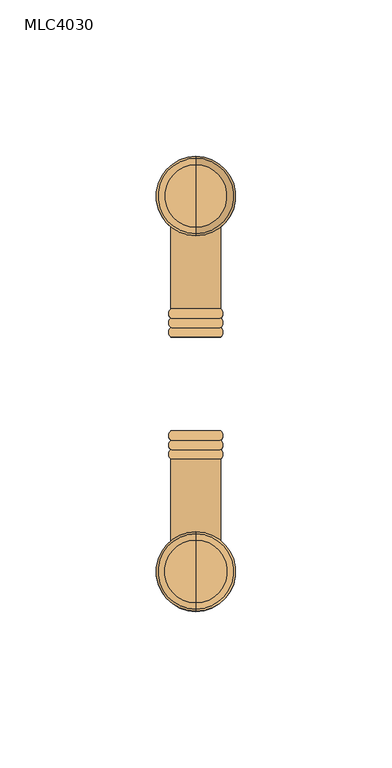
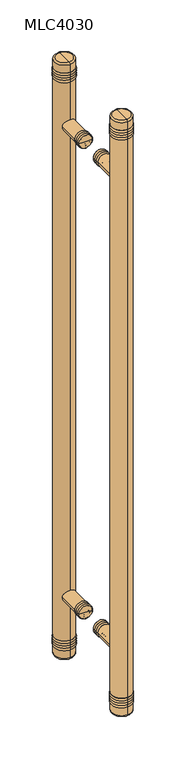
"""IFC4 building model written with IfcOpenShell, lengths in millimetres: door geometry, 双面嵌板连窗玻璃门 4 : MLC4030."""

from ifc_helpers import new_model, si_unit, point, frame, origin, place, context, project, spatial, circle_curve, ellipse_curve, trimmed, source, transform, mapped, element, save
from ifc_brep_helpers import plane_surface, cylinder_surface, revolved_surface, advanced_brep


def mlc4030_d43cdeba(model_context):
    return source(origin(), model_context, "Body", "AdvancedBrep", [
        advanced_brep(
        [(59.0, 15.0, 1300.0), (51.0, 15.0, 1300.0), (67.0, 15.0, 1300.0), (67.0, 24.0, 1300.0), (51.0, 24.0, 1300.0), (59.0, 24.0, 1300.0), (67.0, 21.0, 1300.0), (51.0, 21.0, 1300.0), (67.0, 18.0, 1300.0), (51.0, 18.0, 1300.0)],
        [
            (0, 1),
            (1, 2, circle_curve(frame((59.0, 15.0, 1300.0), z_axis=(0.0, -1.0, 0.0), x_axis=(-1.0, 0.0, 0.0)), 8.0)),
            (2, 0),
            (2, 1, circle_curve(frame((59.0, 15.0, 1300.0), z_axis=(0.0, -1.0, 0.0), x_axis=(-1.0, 0.0, 0.0)), 8.0)),
            (3, 4, circle_curve(frame((59.0, 24.0, 1300.0), z_axis=(0.0, 1.0, 0.0), x_axis=(-1.0, 0.0, 0.0)), 8.0)),
            (4, 5),
            (5, 3),
            (4, 3, circle_curve(frame((59.0, 24.0, 1300.0), z_axis=(0.0, 1.0, 0.0), x_axis=(-1.0, 0.0, 0.0)), 8.0)),
            (6, 7, circle_curve(frame((59.0, 21.0, 1300.0), z_axis=(0.0, 1.0, 0.0), x_axis=(-1.0, 0.0, 0.0)), 8.0)),
            (7, 4, circle_curve(frame((52.3228757, 22.5, 1300.0), z_axis=(0.0, 0.0, -1.0), x_axis=(-1.0, 0.0, 0.0)), 2.0)),
            (3, 6, circle_curve(frame((65.6771243, 22.5, 1300.0), z_axis=(0.0, 0.0, -1.0), x_axis=(1.0, 0.0, 0.0)), 2.0)),
            (7, 6, circle_curve(frame((59.0, 21.0, 1300.0), z_axis=(0.0, 1.0, 0.0), x_axis=(-1.0, 0.0, 0.0)), 8.0)),
            (8, 9, circle_curve(frame((59.0, 18.0, 1300.0), z_axis=(0.0, 1.0, 0.0), x_axis=(-1.0, 0.0, 0.0)), 8.0)),
            (9, 7, circle_curve(frame((52.3228757, 19.5, 1300.0), z_axis=(0.0, 0.0, -1.0), x_axis=(-1.0, 0.0, 0.0)), 2.0)),
            (6, 8, circle_curve(frame((65.6771243, 19.5, 1300.0), z_axis=(0.0, 0.0, -1.0), x_axis=(1.0, 0.0, 0.0)), 2.0)),
            (9, 8, circle_curve(frame((59.0, 18.0, 1300.0), z_axis=(0.0, 1.0, 0.0), x_axis=(-1.0, 0.0, 0.0)), 8.0)),
            (1, 9, circle_curve(frame((52.3228757, 16.5, 1300.0), z_axis=(0.0, 0.0, -1.0), x_axis=(-1.0, 0.0, 0.0)), 2.0)),
            (8, 2, circle_curve(frame((65.6771243, 16.5, 1300.0), z_axis=(0.0, 0.0, -1.0), x_axis=(1.0, 0.0, 0.0)), 2.0)),
        ],
        [
            plane_surface(frame((59.0, 15.0, 1300.0), z_axis=(0.0, -1.0, 0.0), x_axis=(-1.0, 0.0, 0.0))),
            plane_surface(frame((59.0, 24.0, 1300.0), z_axis=(0.0, 1.0, 0.0), x_axis=(-1.0, 0.0, 0.0))),
            revolved_surface(trimmed(ellipse_curve(frame((52.3228757, 22.5, 1300.0), z_axis=(0.0, 0.0, 1.0), x_axis=(-1.0, 0.0, 0.0)), 2.0, 2.0), [point((51.0, 24.0, 1300.0))], [point((51.0, 21.0, 1300.0))], True, "CARTESIAN"), (59.0, -105.0, 1300.0), (0.0, -1.0, 0.0)),
            revolved_surface(trimmed(ellipse_curve(frame((52.3228757, 19.5, 1300.0), z_axis=(0.0, 0.0, 1.0), x_axis=(-1.0, 0.0, 0.0)), 2.0, 2.0), [point((51.0, 21.0, 1300.0))], [point((51.0, 18.0, 1300.0))], True, "CARTESIAN"), (59.0, -105.0, 1300.0), (0.0, -1.0, 0.0)),
            revolved_surface(trimmed(ellipse_curve(frame((52.3228757, 16.5, 1300.0), z_axis=(0.0, 0.0, 1.0), x_axis=(-1.0, 0.0, 0.0)), 2.0, 2.0), [point((51.0, 18.0, 1300.0))], [point((51.0, 15.0, 1300.0))], True, "CARTESIAN"), (59.0, -105.0, 1300.0), (0.0, -1.0, 0.0)),
        ],
        [
            (0, [[1, 2, 3]]),
            (0, [[-3, 4, -1]]),
            (1, [[5, 6, 7]]),
            (1, [[8, -7, -6]]),
            (2, [[9, 10, -5, 11]]),
            (2, [[12, -11, -8, -10]]),
            (3, [[13, 14, -9, 15]]),
            (3, [[16, -15, -12, -14]]),
            (4, [[-2, 17, -13, 18]]),
            (4, [[-4, -18, -16, -17]]),
        ],
    ),
        advanced_brep(
        [(67.0, -18.0, 1300.0), (51.0, -18.0, 1300.0), (51.0, -15.0, 1300.0), (67.0, -15.0, 1300.0), (67.0, -21.0, 1300.0), (51.0, -21.0, 1300.0), (67.0, -24.0, 1300.0), (51.0, -24.0, 1300.0), (59.0, -24.0, 1300.0), (59.0, -15.0, 1300.0)],
        [
            (0, 1, circle_curve(frame((59.0, -18.0, 1300.0), z_axis=(0.0, 1.0, 0.0), x_axis=(-1.0, 0.0, 0.0)), 8.0)),
            (1, 2, circle_curve(frame((52.3228757, -16.5, 1300.0), z_axis=(0.0, 0.0, -1.0), x_axis=(-1.0, 0.0, 0.0)), 2.0)),
            (2, 3, circle_curve(frame((59.0, -15.0, 1300.0), z_axis=(0.0, -1.0, 0.0), x_axis=(-1.0, 0.0, 0.0)), 8.0)),
            (3, 0, circle_curve(frame((65.6771243, -16.5, 1300.0), z_axis=(0.0, 0.0, -1.0), x_axis=(1.0, 0.0, 0.0)), 2.0)),
            (1, 0, circle_curve(frame((59.0, -18.0, 1300.0), z_axis=(0.0, 1.0, 0.0), x_axis=(-1.0, 0.0, 0.0)), 8.0)),
            (3, 2, circle_curve(frame((59.0, -15.0, 1300.0), z_axis=(0.0, -1.0, 0.0), x_axis=(-1.0, 0.0, 0.0)), 8.0)),
            (4, 5, circle_curve(frame((59.0, -21.0, 1300.0), z_axis=(0.0, 1.0, 0.0), x_axis=(-1.0, 0.0, 0.0)), 8.0)),
            (5, 1, circle_curve(frame((52.3228757, -19.5, 1300.0), z_axis=(0.0, 0.0, -1.0), x_axis=(-1.0, 0.0, 0.0)), 2.0)),
            (0, 4, circle_curve(frame((65.6771243, -19.5, 1300.0), z_axis=(0.0, 0.0, -1.0), x_axis=(1.0, 0.0, 0.0)), 2.0)),
            (5, 4, circle_curve(frame((59.0, -21.0, 1300.0), z_axis=(0.0, 1.0, 0.0), x_axis=(-1.0, 0.0, 0.0)), 8.0)),
            (6, 7, circle_curve(frame((59.0, -24.0, 1300.0), z_axis=(0.0, 1.0, 0.0), x_axis=(-1.0, 0.0, 0.0)), 8.0)),
            (7, 5, circle_curve(frame((52.3228757, -22.5, 1300.0), z_axis=(0.0, 0.0, -1.0), x_axis=(-1.0, 0.0, 0.0)), 2.0)),
            (4, 6, circle_curve(frame((65.6771243, -22.5, 1300.0), z_axis=(0.0, 0.0, -1.0), x_axis=(1.0, 0.0, 0.0)), 2.0)),
            (7, 6, circle_curve(frame((59.0, -24.0, 1300.0), z_axis=(0.0, 1.0, 0.0), x_axis=(-1.0, 0.0, 0.0)), 8.0)),
            (8, 7),
            (6, 8),
            (2, 9),
            (9, 3),
        ],
        [
            revolved_surface(trimmed(ellipse_curve(frame((52.3228757, -16.5, 1300.0), z_axis=(0.0, 0.0, 1.0), x_axis=(-1.0, 0.0, 0.0)), 2.0, 2.0), [point((51.0, -15.0, 1300.0))], [point((51.0, -18.0, 1300.0))], True, "CARTESIAN"), (59.0, -105.0, 1300.0), (0.0, -1.0, 0.0)),
            revolved_surface(trimmed(ellipse_curve(frame((52.3228757, -19.5, 1300.0), z_axis=(0.0, 0.0, 1.0), x_axis=(-1.0, 0.0, 0.0)), 2.0, 2.0), [point((51.0, -18.0, 1300.0))], [point((51.0, -21.0, 1300.0))], True, "CARTESIAN"), (59.0, -105.0, 1300.0), (0.0, -1.0, 0.0)),
            revolved_surface(trimmed(ellipse_curve(frame((52.3228757, -22.5, 1300.0), z_axis=(0.0, 0.0, 1.0), x_axis=(-1.0, 0.0, 0.0)), 2.0, 2.0), [point((51.0, -21.0, 1300.0))], [point((51.0, -24.0, 1300.0))], True, "CARTESIAN"), (59.0, -105.0, 1300.0), (0.0, -1.0, 0.0)),
            plane_surface(frame((59.0, -24.0, 1300.0), z_axis=(0.0, -1.0, 0.0), x_axis=(-1.0, 0.0, 0.0))),
            plane_surface(frame((59.0, -15.0, 1300.0), z_axis=(0.0, 1.0, 0.0), x_axis=(-1.0, 0.0, 0.0))),
        ],
        [
            (0, [[1, 2, 3, 4]]),
            (0, [[5, -4, 6, -2]]),
            (1, [[7, 8, -1, 9]]),
            (1, [[10, -9, -5, -8]]),
            (2, [[11, 12, -7, 13]]),
            (2, [[14, -13, -10, -12]]),
            (3, [[15, -11, 16]]),
            (3, [[-16, -14, -15]]),
            (4, [[-3, 17, 18]]),
            (4, [[-6, -18, -17]]),
        ],
    ),
        advanced_brep(
        [(59.0, 15.0, 700.0), (51.0, 15.0, 700.0), (67.0, 15.0, 700.0), (67.0, 24.0, 700.0), (51.0, 24.0, 700.0), (59.0, 24.0, 700.0), (67.0, 21.0, 700.0), (51.0, 21.0, 700.0), (67.0, 18.0, 700.0), (51.0, 18.0, 700.0)],
        [
            (0, 1),
            (1, 2, circle_curve(frame((59.0, 15.0, 700.0), z_axis=(0.0, -1.0, 0.0), x_axis=(-1.0, 0.0, 0.0)), 8.0)),
            (2, 0),
            (2, 1, circle_curve(frame((59.0, 15.0, 700.0), z_axis=(0.0, -1.0, 0.0), x_axis=(-1.0, 0.0, 0.0)), 8.0)),
            (3, 4, circle_curve(frame((59.0, 24.0, 700.0), z_axis=(0.0, 1.0, 0.0), x_axis=(-1.0, 0.0, 0.0)), 8.0)),
            (4, 5),
            (5, 3),
            (4, 3, circle_curve(frame((59.0, 24.0, 700.0), z_axis=(0.0, 1.0, 0.0), x_axis=(-1.0, 0.0, 0.0)), 8.0)),
            (6, 7, circle_curve(frame((59.0, 21.0, 700.0), z_axis=(0.0, 1.0, 0.0), x_axis=(-1.0, 0.0, 0.0)), 8.0)),
            (7, 4, circle_curve(frame((52.3228757, 22.5, 700.0), z_axis=(0.0, 0.0, -1.0), x_axis=(-1.0, 0.0, 0.0)), 2.0)),
            (3, 6, circle_curve(frame((65.6771243, 22.5, 700.0), z_axis=(0.0, 0.0, -1.0), x_axis=(1.0, 0.0, 0.0)), 2.0)),
            (7, 6, circle_curve(frame((59.0, 21.0, 700.0), z_axis=(0.0, 1.0, 0.0), x_axis=(-1.0, 0.0, 0.0)), 8.0)),
            (8, 9, circle_curve(frame((59.0, 18.0, 700.0), z_axis=(0.0, 1.0, 0.0), x_axis=(-1.0, 0.0, 0.0)), 8.0)),
            (9, 7, circle_curve(frame((52.3228757, 19.5, 700.0), z_axis=(0.0, 0.0, -1.0), x_axis=(-1.0, 0.0, 0.0)), 2.0)),
            (6, 8, circle_curve(frame((65.6771243, 19.5, 700.0), z_axis=(0.0, 0.0, -1.0), x_axis=(1.0, 0.0, 0.0)), 2.0)),
            (9, 8, circle_curve(frame((59.0, 18.0, 700.0), z_axis=(0.0, 1.0, 0.0), x_axis=(-1.0, 0.0, 0.0)), 8.0)),
            (1, 9, circle_curve(frame((52.3228757, 16.5, 700.0), z_axis=(0.0, 0.0, -1.0), x_axis=(-1.0, 0.0, 0.0)), 2.0)),
            (8, 2, circle_curve(frame((65.6771243, 16.5, 700.0), z_axis=(0.0, 0.0, -1.0), x_axis=(1.0, 0.0, 0.0)), 2.0)),
        ],
        [
            plane_surface(frame((59.0, 15.0, 700.0), z_axis=(0.0, -1.0, 0.0), x_axis=(-1.0, 0.0, 0.0))),
            plane_surface(frame((59.0, 24.0, 700.0), z_axis=(0.0, 1.0, 0.0), x_axis=(-1.0, 0.0, 0.0))),
            revolved_surface(trimmed(ellipse_curve(frame((52.3228757, 22.5, 700.0), z_axis=(0.0, 0.0, 1.0), x_axis=(-1.0, 0.0, 0.0)), 2.0, 2.0), [point((51.0, 24.0, 700.0))], [point((51.0, 21.0, 700.0))], True, "CARTESIAN"), (59.0, -105.0, 700.0), (0.0, -1.0, 0.0)),
            revolved_surface(trimmed(ellipse_curve(frame((52.3228757, 19.5, 700.0), z_axis=(0.0, 0.0, 1.0), x_axis=(-1.0, 0.0, 0.0)), 2.0, 2.0), [point((51.0, 21.0, 700.0))], [point((51.0, 18.0, 700.0))], True, "CARTESIAN"), (59.0, -105.0, 700.0), (0.0, -1.0, 0.0)),
            revolved_surface(trimmed(ellipse_curve(frame((52.3228757, 16.5, 700.0), z_axis=(0.0, 0.0, 1.0), x_axis=(-1.0, 0.0, 0.0)), 2.0, 2.0), [point((51.0, 18.0, 700.0))], [point((51.0, 15.0, 700.0))], True, "CARTESIAN"), (59.0, -105.0, 700.0), (0.0, -1.0, 0.0)),
        ],
        [
            (0, [[1, 2, 3]]),
            (0, [[-3, 4, -1]]),
            (1, [[5, 6, 7]]),
            (1, [[8, -7, -6]]),
            (2, [[9, 10, -5, 11]]),
            (2, [[12, -11, -8, -10]]),
            (3, [[13, 14, -9, 15]]),
            (3, [[16, -15, -12, -14]]),
            (4, [[-2, 17, -13, 18]]),
            (4, [[-4, -18, -16, -17]]),
        ],
    ),
        advanced_brep(
        [(67.0, -18.0, 700.0), (51.0, -18.0, 700.0), (51.0, -15.0, 700.0), (67.0, -15.0, 700.0), (67.0, -21.0, 700.0), (51.0, -21.0, 700.0), (67.0, -24.0, 700.0), (51.0, -24.0, 700.0), (59.0, -24.0, 700.0), (59.0, -15.0, 700.0)],
        [
            (0, 1, circle_curve(frame((59.0, -18.0, 700.0), z_axis=(0.0, 1.0, 0.0), x_axis=(-1.0, 0.0, 0.0)), 8.0)),
            (1, 2, circle_curve(frame((52.3228757, -16.5, 700.0), z_axis=(0.0, 0.0, -1.0), x_axis=(-1.0, 0.0, 0.0)), 2.0)),
            (2, 3, circle_curve(frame((59.0, -15.0, 700.0), z_axis=(0.0, -1.0, 0.0), x_axis=(-1.0, 0.0, 0.0)), 8.0)),
            (3, 0, circle_curve(frame((65.6771243, -16.5, 700.0), z_axis=(0.0, 0.0, -1.0), x_axis=(1.0, 0.0, 0.0)), 2.0)),
            (1, 0, circle_curve(frame((59.0, -18.0, 700.0), z_axis=(0.0, 1.0, 0.0), x_axis=(-1.0, 0.0, 0.0)), 8.0)),
            (3, 2, circle_curve(frame((59.0, -15.0, 700.0), z_axis=(0.0, -1.0, 0.0), x_axis=(-1.0, 0.0, 0.0)), 8.0)),
            (4, 5, circle_curve(frame((59.0, -21.0, 700.0), z_axis=(0.0, 1.0, 0.0), x_axis=(-1.0, 0.0, 0.0)), 8.0)),
            (5, 1, circle_curve(frame((52.3228757, -19.5, 700.0), z_axis=(0.0, 0.0, -1.0), x_axis=(-1.0, 0.0, 0.0)), 2.0)),
            (0, 4, circle_curve(frame((65.6771243, -19.5, 700.0), z_axis=(0.0, 0.0, -1.0), x_axis=(1.0, 0.0, 0.0)), 2.0)),
            (5, 4, circle_curve(frame((59.0, -21.0, 700.0), z_axis=(0.0, 1.0, 0.0), x_axis=(-1.0, 0.0, 0.0)), 8.0)),
            (6, 7, circle_curve(frame((59.0, -24.0, 700.0), z_axis=(0.0, 1.0, 0.0), x_axis=(-1.0, 0.0, 0.0)), 8.0)),
            (7, 5, circle_curve(frame((52.3228757, -22.5, 700.0), z_axis=(0.0, 0.0, -1.0), x_axis=(-1.0, 0.0, 0.0)), 2.0)),
            (4, 6, circle_curve(frame((65.6771243, -22.5, 700.0), z_axis=(0.0, 0.0, -1.0), x_axis=(1.0, 0.0, 0.0)), 2.0)),
            (7, 6, circle_curve(frame((59.0, -24.0, 700.0), z_axis=(0.0, 1.0, 0.0), x_axis=(-1.0, 0.0, 0.0)), 8.0)),
            (8, 7),
            (6, 8),
            (2, 9),
            (9, 3),
        ],
        [
            revolved_surface(trimmed(ellipse_curve(frame((52.3228757, -16.5, 700.0), z_axis=(0.0, 0.0, 1.0), x_axis=(-1.0, 0.0, 0.0)), 2.0, 2.0), [point((51.0, -15.0, 700.0))], [point((51.0, -18.0, 700.0))], True, "CARTESIAN"), (59.0, -105.0, 700.0), (0.0, -1.0, 0.0)),
            revolved_surface(trimmed(ellipse_curve(frame((52.3228757, -19.5, 700.0), z_axis=(0.0, 0.0, 1.0), x_axis=(-1.0, 0.0, 0.0)), 2.0, 2.0), [point((51.0, -18.0, 700.0))], [point((51.0, -21.0, 700.0))], True, "CARTESIAN"), (59.0, -105.0, 700.0), (0.0, -1.0, 0.0)),
            revolved_surface(trimmed(ellipse_curve(frame((52.3228757, -22.5, 700.0), z_axis=(0.0, 0.0, 1.0), x_axis=(-1.0, 0.0, 0.0)), 2.0, 2.0), [point((51.0, -21.0, 700.0))], [point((51.0, -24.0, 700.0))], True, "CARTESIAN"), (59.0, -105.0, 700.0), (0.0, -1.0, 0.0)),
            plane_surface(frame((59.0, -24.0, 700.0), z_axis=(0.0, -1.0, 0.0), x_axis=(-1.0, 0.0, 0.0))),
            plane_surface(frame((59.0, -15.0, 700.0), z_axis=(0.0, 1.0, 0.0), x_axis=(-1.0, 0.0, 0.0))),
        ],
        [
            (0, [[1, 2, 3, 4]]),
            (0, [[5, -4, 6, -2]]),
            (1, [[7, 8, -1, 9]]),
            (1, [[10, -9, -5, -8]]),
            (2, [[11, 12, -7, 13]]),
            (2, [[14, -13, -10, -12]]),
            (3, [[15, -11, 16]]),
            (3, [[-16, -14, -15]]),
            (4, [[-3, 17, 18]]),
            (4, [[-6, -18, -17]]),
        ],
    ),
        advanced_brep(
        [(59.0, 48.0, 1356.0), (59.0, 72.0, 1356.0), (59.0, 60.0, 1356.0), (59.0, 48.0, 1359.0), (59.0, 72.0, 1359.0), (59.0, 48.0, 1362.0), (59.0, 72.0, 1362.0), (59.0, 48.0, 1365.0), (59.0, 72.0, 1365.0), (59.0, 48.0, 1368.0), (59.0, 72.0, 1368.0), (59.0, 60.0, 1368.0)],
        [
            (0, 1, circle_curve(frame((59.0, 60.0, 1356.0), z_axis=(0.0, 0.0, -1.0), x_axis=(0.0, 1.0, 0.0)), 12.0)),
            (1, 2),
            (2, 0),
            (1, 0, circle_curve(frame((59.0, 60.0, 1356.0), z_axis=(0.0, 0.0, -1.0), x_axis=(0.0, 1.0, 0.0)), 12.0)),
            (3, 4, circle_curve(frame((59.0, 60.0, 1359.0), z_axis=(0.0, 0.0, -1.0), x_axis=(0.0, 1.0, 0.0)), 12.0)),
            (4, 1, circle_curve(frame((59.0, 70.6771243, 1357.5), z_axis=(-1.0, 0.0, 0.0), x_axis=(0.0, 1.0, 0.0)), 2.0)),
            (0, 3, circle_curve(frame((59.0, 49.3228757, 1357.5), z_axis=(-1.0, 0.0, 0.0), x_axis=(0.0, -1.0, 0.0)), 2.0)),
            (4, 3, circle_curve(frame((59.0, 60.0, 1359.0), z_axis=(0.0, 0.0, -1.0), x_axis=(0.0, 1.0, 0.0)), 12.0)),
            (5, 6, circle_curve(frame((59.0, 60.0, 1362.0), z_axis=(0.0, 0.0, -1.0), x_axis=(0.0, 1.0, 0.0)), 12.0)),
            (6, 4, circle_curve(frame((59.0, 70.6771243, 1360.5), z_axis=(-1.0, 0.0, 0.0), x_axis=(0.0, 1.0, 0.0)), 2.0)),
            (3, 5, circle_curve(frame((59.0, 49.3228757, 1360.5), z_axis=(-1.0, 0.0, 0.0), x_axis=(0.0, -1.0, 0.0)), 2.0)),
            (6, 5, circle_curve(frame((59.0, 60.0, 1362.0), z_axis=(0.0, 0.0, -1.0), x_axis=(0.0, 1.0, 0.0)), 12.0)),
            (7, 8, circle_curve(frame((59.0, 60.0, 1365.0), z_axis=(0.0, 0.0, -1.0), x_axis=(0.0, 1.0, 0.0)), 12.0)),
            (8, 6, circle_curve(frame((59.0, 70.6771243, 1363.5), z_axis=(-1.0, 0.0, 0.0), x_axis=(0.0, 1.0, 0.0)), 2.0)),
            (5, 7, circle_curve(frame((59.0, 49.3228757, 1363.5), z_axis=(-1.0, 0.0, 0.0), x_axis=(0.0, -1.0, 0.0)), 2.0)),
            (8, 7, circle_curve(frame((59.0, 60.0, 1365.0), z_axis=(0.0, 0.0, -1.0), x_axis=(0.0, 1.0, 0.0)), 12.0)),
            (9, 10, circle_curve(frame((59.0, 60.0, 1368.0), z_axis=(0.0, 0.0, -1.0), x_axis=(0.0, 1.0, 0.0)), 12.0)),
            (10, 8, circle_curve(frame((59.0, 70.6771243, 1366.5), z_axis=(-1.0, 0.0, 0.0), x_axis=(0.0, 1.0, 0.0)), 2.0)),
            (7, 9, circle_curve(frame((59.0, 49.3228757, 1366.5), z_axis=(-1.0, 0.0, 0.0), x_axis=(0.0, -1.0, 0.0)), 2.0)),
            (10, 9, circle_curve(frame((59.0, 60.0, 1368.0), z_axis=(0.0, 0.0, -1.0), x_axis=(0.0, 1.0, 0.0)), 12.0)),
            (11, 10),
            (9, 11),
        ],
        [
            plane_surface(frame((59.0, 60.0, 1356.0), z_axis=(0.0, 0.0, -1.0), x_axis=(0.0, 1.0, 0.0))),
            revolved_surface(trimmed(ellipse_curve(frame((59.0, 70.6771243, 1357.5), z_axis=(1.0, 0.0, 0.0), x_axis=(0.0, 1.0, 0.0)), 2.0, 2.0), [point((59.0, 72.0, 1356.0))], [point((59.0, 72.0, 1359.0))], True, "CARTESIAN"), (59.0, 60.0, 690.0), (0.0, 0.0, 1.0)),
            revolved_surface(trimmed(ellipse_curve(frame((59.0, 70.6771243, 1360.5), z_axis=(1.0, 0.0, 0.0), x_axis=(0.0, 1.0, 0.0)), 2.0, 2.0), [point((59.0, 72.0, 1359.0))], [point((59.0, 72.0, 1362.0))], True, "CARTESIAN"), (59.0, 60.0, 690.0), (0.0, 0.0, 1.0)),
            revolved_surface(trimmed(ellipse_curve(frame((59.0, 70.6771243, 1363.5), z_axis=(1.0, 0.0, 0.0), x_axis=(0.0, 1.0, 0.0)), 2.0, 2.0), [point((59.0, 72.0, 1362.0))], [point((59.0, 72.0, 1365.0))], True, "CARTESIAN"), (59.0, 60.0, 690.0), (0.0, 0.0, 1.0)),
            revolved_surface(trimmed(ellipse_curve(frame((59.0, 70.6771243, 1366.5), z_axis=(1.0, 0.0, 0.0), x_axis=(0.0, 1.0, 0.0)), 2.0, 2.0), [point((59.0, 72.0, 1365.0))], [point((59.0, 72.0, 1368.0))], True, "CARTESIAN"), (59.0, 60.0, 690.0), (0.0, 0.0, 1.0)),
            plane_surface(frame((59.0, 60.0, 1368.0), z_axis=(0.0, 0.0, 1.0), x_axis=(0.0, 1.0, 0.0))),
        ],
        [
            (0, [[1, 2, 3]]),
            (0, [[4, -3, -2]]),
            (1, [[5, 6, -1, 7]]),
            (1, [[8, -7, -4, -6]]),
            (2, [[9, 10, -5, 11]]),
            (2, [[12, -11, -8, -10]]),
            (3, [[13, 14, -9, 15]]),
            (3, [[16, -15, -12, -14]]),
            (4, [[17, 18, -13, 19]]),
            (4, [[20, -19, -16, -18]]),
            (5, [[21, -17, 22]]),
            (5, [[-22, -20, -21]]),
        ],
    ),
        advanced_brep(
        [(59.0, 48.0, 632.0), (59.0, 72.0, 632.0), (59.0, 60.0, 632.0), (59.0, 48.0, 635.0), (59.0, 72.0, 635.0), (59.0, 48.0, 638.0), (59.0, 72.0, 638.0), (59.0, 48.0, 641.0), (59.0, 72.0, 641.0), (59.0, 48.0, 644.0), (59.0, 72.0, 644.0), (59.0, 60.0, 644.0)],
        [
            (0, 1, circle_curve(frame((59.0, 60.0, 632.0), z_axis=(0.0, 0.0, -1.0), x_axis=(0.0, 1.0, 0.0)), 12.0)),
            (1, 2),
            (2, 0),
            (1, 0, circle_curve(frame((59.0, 60.0, 632.0), z_axis=(0.0, 0.0, -1.0), x_axis=(0.0, 1.0, 0.0)), 12.0)),
            (3, 4, circle_curve(frame((59.0, 60.0, 635.0), z_axis=(0.0, 0.0, -1.0), x_axis=(0.0, 1.0, 0.0)), 12.0)),
            (4, 1, circle_curve(frame((59.0, 70.6771243, 633.5), z_axis=(-1.0, 0.0, 0.0), x_axis=(0.0, 1.0, 0.0)), 2.0)),
            (0, 3, circle_curve(frame((59.0, 49.3228757, 633.5), z_axis=(-1.0, 0.0, 0.0), x_axis=(0.0, -1.0, 0.0)), 2.0)),
            (4, 3, circle_curve(frame((59.0, 60.0, 635.0), z_axis=(0.0, 0.0, -1.0), x_axis=(0.0, 1.0, 0.0)), 12.0)),
            (5, 6, circle_curve(frame((59.0, 60.0, 638.0), z_axis=(0.0, 0.0, -1.0), x_axis=(0.0, 1.0, 0.0)), 12.0)),
            (6, 4, circle_curve(frame((59.0, 70.6771243, 636.5), z_axis=(-1.0, 0.0, 0.0), x_axis=(0.0, 1.0, 0.0)), 2.0)),
            (3, 5, circle_curve(frame((59.0, 49.3228757, 636.5), z_axis=(-1.0, 0.0, 0.0), x_axis=(0.0, -1.0, 0.0)), 2.0)),
            (6, 5, circle_curve(frame((59.0, 60.0, 638.0), z_axis=(0.0, 0.0, -1.0), x_axis=(0.0, 1.0, 0.0)), 12.0)),
            (7, 8, circle_curve(frame((59.0, 60.0, 641.0), z_axis=(0.0, 0.0, -1.0), x_axis=(0.0, 1.0, 0.0)), 12.0)),
            (8, 6, circle_curve(frame((59.0, 70.6771243, 639.5), z_axis=(-1.0, 0.0, 0.0), x_axis=(0.0, 1.0, 0.0)), 2.0)),
            (5, 7, circle_curve(frame((59.0, 49.3228757, 639.5), z_axis=(-1.0, 0.0, 0.0), x_axis=(0.0, -1.0, 0.0)), 2.0)),
            (8, 7, circle_curve(frame((59.0, 60.0, 641.0), z_axis=(0.0, 0.0, -1.0), x_axis=(0.0, 1.0, 0.0)), 12.0)),
            (9, 10, circle_curve(frame((59.0, 60.0, 644.0), z_axis=(0.0, 0.0, -1.0), x_axis=(0.0, 1.0, 0.0)), 12.0)),
            (10, 8, circle_curve(frame((59.0, 70.6771243, 642.5), z_axis=(-1.0, 0.0, 0.0), x_axis=(0.0, 1.0, 0.0)), 2.0)),
            (7, 9, circle_curve(frame((59.0, 49.3228757, 642.5), z_axis=(-1.0, 0.0, 0.0), x_axis=(0.0, -1.0, 0.0)), 2.0)),
            (10, 9, circle_curve(frame((59.0, 60.0, 644.0), z_axis=(0.0, 0.0, -1.0), x_axis=(0.0, 1.0, 0.0)), 12.0)),
            (11, 10),
            (9, 11),
        ],
        [
            plane_surface(frame((59.0, 60.0, 632.0), z_axis=(0.0, 0.0, -1.0), x_axis=(0.0, 1.0, 0.0))),
            revolved_surface(trimmed(ellipse_curve(frame((59.0, 70.6771243, 633.5), z_axis=(1.0, 0.0, 0.0), x_axis=(0.0, 1.0, 0.0)), 2.0, 2.0), [point((59.0, 72.0, 632.0))], [point((59.0, 72.0, 635.0))], True, "CARTESIAN"), (59.0, 60.0, 690.0), (0.0, 0.0, 1.0)),
            revolved_surface(trimmed(ellipse_curve(frame((59.0, 70.6771243, 636.5), z_axis=(1.0, 0.0, 0.0), x_axis=(0.0, 1.0, 0.0)), 2.0, 2.0), [point((59.0, 72.0, 635.0))], [point((59.0, 72.0, 638.0))], True, "CARTESIAN"), (59.0, 60.0, 690.0), (0.0, 0.0, 1.0)),
            revolved_surface(trimmed(ellipse_curve(frame((59.0, 70.6771243, 639.5), z_axis=(1.0, 0.0, 0.0), x_axis=(0.0, 1.0, 0.0)), 2.0, 2.0), [point((59.0, 72.0, 638.0))], [point((59.0, 72.0, 641.0))], True, "CARTESIAN"), (59.0, 60.0, 690.0), (0.0, 0.0, 1.0)),
            revolved_surface(trimmed(ellipse_curve(frame((59.0, 70.6771243, 642.5), z_axis=(1.0, 0.0, 0.0), x_axis=(0.0, 1.0, 0.0)), 2.0, 2.0), [point((59.0, 72.0, 641.0))], [point((59.0, 72.0, 644.0))], True, "CARTESIAN"), (59.0, 60.0, 690.0), (0.0, 0.0, 1.0)),
            plane_surface(frame((59.0, 60.0, 644.0), z_axis=(0.0, 0.0, 1.0), x_axis=(0.0, 1.0, 0.0))),
        ],
        [
            (0, [[1, 2, 3]]),
            (0, [[4, -3, -2]]),
            (1, [[5, 6, -1, 7]]),
            (1, [[8, -7, -4, -6]]),
            (2, [[9, 10, -5, 11]]),
            (2, [[12, -11, -8, -10]]),
            (3, [[13, 14, -9, 15]]),
            (3, [[16, -15, -12, -14]]),
            (4, [[17, 18, -13, 19]]),
            (4, [[20, -19, -16, -18]]),
            (5, [[21, -17, 22]]),
            (5, [[-22, -20, -21]]),
        ],
    ),
        advanced_brep(
        [(59.0, -48.0, 1364.8958565), (59.0, -72.0, 1364.8958565), (59.0, -72.0, 1367.8958565), (59.0, -48.0, 1367.8958565), (59.0, -48.0, 1361.8958565), (59.0, -72.0, 1361.8958565), (59.0, -48.0, 1358.8958565), (59.0, -72.0, 1358.8958565), (59.0, -48.0, 1355.8958565), (59.0, -72.0, 1355.8958565), (59.0, -60.0, 1355.8958565), (59.0, -60.0, 1367.8958565)],
        [
            (0, 1, circle_curve(frame((59.0, -60.0, 1364.8958565), z_axis=(0.0, 0.0, 1.0), x_axis=(0.0, -1.0, 0.0)), 12.0)),
            (1, 2, circle_curve(frame((59.0, -70.6771243, 1366.3958565), z_axis=(-1.0, 0.0, 0.0), x_axis=(0.0, 1.0, 0.0)), 2.0)),
            (2, 3, circle_curve(frame((59.0, -60.0, 1367.8958565), z_axis=(0.0, 0.0, -1.0), x_axis=(0.0, -1.0, 0.0)), 12.0)),
            (3, 0, circle_curve(frame((59.0, -49.3228757, 1366.3958565), z_axis=(-1.0, 0.0, 0.0), x_axis=(0.0, -1.0, 0.0)), 2.0)),
            (1, 0, circle_curve(frame((59.0, -60.0, 1364.8958565), z_axis=(0.0, 0.0, 1.0), x_axis=(0.0, -1.0, 0.0)), 12.0)),
            (3, 2, circle_curve(frame((59.0, -60.0, 1367.8958565), z_axis=(0.0, 0.0, -1.0), x_axis=(0.0, -1.0, 0.0)), 12.0)),
            (4, 5, circle_curve(frame((59.0, -60.0, 1361.8958565), z_axis=(0.0, 0.0, 1.0), x_axis=(0.0, -1.0, 0.0)), 12.0)),
            (5, 1, circle_curve(frame((59.0, -70.6771243, 1363.3958565), z_axis=(-1.0, 0.0, 0.0), x_axis=(0.0, 1.0, 0.0)), 2.0)),
            (0, 4, circle_curve(frame((59.0, -49.3228757, 1363.3958565), z_axis=(-1.0, 0.0, 0.0), x_axis=(0.0, -1.0, 0.0)), 2.0)),
            (5, 4, circle_curve(frame((59.0, -60.0, 1361.8958565), z_axis=(0.0, 0.0, 1.0), x_axis=(0.0, -1.0, 0.0)), 12.0)),
            (6, 7, circle_curve(frame((59.0, -60.0, 1358.8958565), z_axis=(0.0, 0.0, 1.0), x_axis=(0.0, -1.0, 0.0)), 12.0)),
            (7, 5, circle_curve(frame((59.0, -70.6771243, 1360.3958565), z_axis=(-1.0, 0.0, 0.0), x_axis=(0.0, 1.0, 0.0)), 2.0)),
            (4, 6, circle_curve(frame((59.0, -49.3228757, 1360.3958565), z_axis=(-1.0, 0.0, 0.0), x_axis=(0.0, -1.0, 0.0)), 2.0)),
            (7, 6, circle_curve(frame((59.0, -60.0, 1358.8958565), z_axis=(0.0, 0.0, 1.0), x_axis=(0.0, -1.0, 0.0)), 12.0)),
            (8, 9, circle_curve(frame((59.0, -60.0, 1355.8958565), z_axis=(0.0, 0.0, 1.0), x_axis=(0.0, -1.0, 0.0)), 12.0)),
            (9, 7, circle_curve(frame((59.0, -70.6771243, 1357.3958565), z_axis=(-1.0, 0.0, 0.0), x_axis=(0.0, 1.0, 0.0)), 2.0)),
            (6, 8, circle_curve(frame((59.0, -49.3228757, 1357.3958565), z_axis=(-1.0, 0.0, 0.0), x_axis=(0.0, -1.0, 0.0)), 2.0)),
            (9, 8, circle_curve(frame((59.0, -60.0, 1355.8958565), z_axis=(0.0, 0.0, 1.0), x_axis=(0.0, -1.0, 0.0)), 12.0)),
            (10, 9),
            (8, 10),
            (2, 11),
            (11, 3),
        ],
        [
            revolved_surface(trimmed(ellipse_curve(frame((59.0, -70.6771243, 1366.3958565), z_axis=(1.0, 0.0, 0.0), x_axis=(0.0, 1.0, 0.0)), 2.0, 2.0), [point((59.0, -72.0, 1367.8958565))], [point((59.0, -72.0, 1364.8958565))], True, "CARTESIAN"), (59.0, -60.0, 690.0), (0.0, 0.0, -1.0)),
            revolved_surface(trimmed(ellipse_curve(frame((59.0, -70.6771243, 1363.3958565), z_axis=(1.0, 0.0, 0.0), x_axis=(0.0, 1.0, 0.0)), 2.0, 2.0), [point((59.0, -72.0, 1364.8958565))], [point((59.0, -72.0, 1361.8958565))], True, "CARTESIAN"), (59.0, -60.0, 690.0), (0.0, 0.0, -1.0)),
            revolved_surface(trimmed(ellipse_curve(frame((59.0, -70.6771243, 1360.3958565), z_axis=(1.0, 0.0, 0.0), x_axis=(0.0, 1.0, 0.0)), 2.0, 2.0), [point((59.0, -72.0, 1361.8958565))], [point((59.0, -72.0, 1358.8958565))], True, "CARTESIAN"), (59.0, -60.0, 690.0), (0.0, 0.0, -1.0)),
            revolved_surface(trimmed(ellipse_curve(frame((59.0, -70.6771243, 1357.3958565), z_axis=(1.0, 0.0, 0.0), x_axis=(0.0, 1.0, 0.0)), 2.0, 2.0), [point((59.0, -72.0, 1358.8958565))], [point((59.0, -72.0, 1355.8958565))], True, "CARTESIAN"), (59.0, -60.0, 690.0), (0.0, 0.0, -1.0)),
            plane_surface(frame((59.0, -60.0, 1355.8958565), z_axis=(0.0, 0.0, -1.0), x_axis=(0.0, -1.0, 0.0))),
            plane_surface(frame((59.0, -60.0, 1367.8958565), z_axis=(0.0, 0.0, 1.0), x_axis=(0.0, -1.0, 0.0))),
        ],
        [
            (0, [[1, 2, 3, 4]]),
            (0, [[5, -4, 6, -2]]),
            (1, [[7, 8, -1, 9]]),
            (1, [[10, -9, -5, -8]]),
            (2, [[11, 12, -7, 13]]),
            (2, [[14, -13, -10, -12]]),
            (3, [[15, 16, -11, 17]]),
            (3, [[18, -17, -14, -16]]),
            (4, [[19, -15, 20]]),
            (4, [[-20, -18, -19]]),
            (5, [[-3, 21, 22]]),
            (5, [[-6, -22, -21]]),
        ],
    ),
        advanced_brep(
        [(59.0, -48.0, 644.0), (59.0, -72.0, 644.0), (59.0, -60.0, 644.0), (59.0, -48.0, 641.0), (59.0, -72.0, 641.0), (59.0, -48.0, 638.0), (59.0, -72.0, 638.0), (59.0, -48.0, 635.0), (59.0, -72.0, 635.0), (59.0, -48.0, 632.0), (59.0, -72.0, 632.0), (59.0, -60.0, 632.0)],
        [
            (0, 1, circle_curve(frame((59.0, -60.0, 644.0), z_axis=(0.0, 0.0, 1.0), x_axis=(0.0, -1.0, 0.0)), 12.0)),
            (1, 2),
            (2, 0),
            (1, 0, circle_curve(frame((59.0, -60.0, 644.0), z_axis=(0.0, 0.0, 1.0), x_axis=(0.0, -1.0, 0.0)), 12.0)),
            (3, 4, circle_curve(frame((59.0, -60.0, 641.0), z_axis=(0.0, 0.0, 1.0), x_axis=(0.0, -1.0, 0.0)), 12.0)),
            (4, 1, circle_curve(frame((59.0, -70.6771243, 642.5), z_axis=(-1.0, 0.0, 0.0), x_axis=(0.0, 1.0, 0.0)), 2.0)),
            (0, 3, circle_curve(frame((59.0, -49.3228757, 642.5), z_axis=(-1.0, 0.0, 0.0), x_axis=(0.0, -1.0, 0.0)), 2.0)),
            (4, 3, circle_curve(frame((59.0, -60.0, 641.0), z_axis=(0.0, 0.0, 1.0), x_axis=(0.0, -1.0, 0.0)), 12.0)),
            (5, 6, circle_curve(frame((59.0, -60.0, 638.0), z_axis=(0.0, 0.0, 1.0), x_axis=(0.0, -1.0, 0.0)), 12.0)),
            (6, 4, circle_curve(frame((59.0, -70.6771243, 639.5), z_axis=(-1.0, 0.0, 0.0), x_axis=(0.0, 1.0, 0.0)), 2.0)),
            (3, 5, circle_curve(frame((59.0, -49.3228757, 639.5), z_axis=(-1.0, 0.0, 0.0), x_axis=(0.0, -1.0, 0.0)), 2.0)),
            (6, 5, circle_curve(frame((59.0, -60.0, 638.0), z_axis=(0.0, 0.0, 1.0), x_axis=(0.0, -1.0, 0.0)), 12.0)),
            (7, 8, circle_curve(frame((59.0, -60.0, 635.0), z_axis=(0.0, 0.0, 1.0), x_axis=(0.0, -1.0, 0.0)), 12.0)),
            (8, 6, circle_curve(frame((59.0, -70.6771243, 636.5), z_axis=(-1.0, 0.0, 0.0), x_axis=(0.0, 1.0, 0.0)), 2.0)),
            (5, 7, circle_curve(frame((59.0, -49.3228757, 636.5), z_axis=(-1.0, 0.0, 0.0), x_axis=(0.0, -1.0, 0.0)), 2.0)),
            (8, 7, circle_curve(frame((59.0, -60.0, 635.0), z_axis=(0.0, 0.0, 1.0), x_axis=(0.0, -1.0, 0.0)), 12.0)),
            (9, 10, circle_curve(frame((59.0, -60.0, 632.0), z_axis=(0.0, 0.0, 1.0), x_axis=(0.0, -1.0, 0.0)), 12.0)),
            (10, 8, circle_curve(frame((59.0, -70.6771243, 633.5), z_axis=(-1.0, 0.0, 0.0), x_axis=(0.0, 1.0, 0.0)), 2.0)),
            (7, 9, circle_curve(frame((59.0, -49.3228757, 633.5), z_axis=(-1.0, 0.0, 0.0), x_axis=(0.0, -1.0, 0.0)), 2.0)),
            (10, 9, circle_curve(frame((59.0, -60.0, 632.0), z_axis=(0.0, 0.0, 1.0), x_axis=(0.0, -1.0, 0.0)), 12.0)),
            (11, 10),
            (9, 11),
        ],
        [
            plane_surface(frame((59.0, -60.0, 644.0), z_axis=(0.0, 0.0, 1.0), x_axis=(0.0, -1.0, 0.0))),
            revolved_surface(trimmed(ellipse_curve(frame((59.0, -70.6771243, 642.5), z_axis=(1.0, 0.0, 0.0), x_axis=(0.0, 1.0, 0.0)), 2.0, 2.0), [point((59.0, -72.0, 644.0))], [point((59.0, -72.0, 641.0))], True, "CARTESIAN"), (59.0, -60.0, 690.0), (0.0, 0.0, -1.0)),
            revolved_surface(trimmed(ellipse_curve(frame((59.0, -70.6771243, 639.5), z_axis=(1.0, 0.0, 0.0), x_axis=(0.0, 1.0, 0.0)), 2.0, 2.0), [point((59.0, -72.0, 641.0))], [point((59.0, -72.0, 638.0))], True, "CARTESIAN"), (59.0, -60.0, 690.0), (0.0, 0.0, -1.0)),
            revolved_surface(trimmed(ellipse_curve(frame((59.0, -70.6771243, 636.5), z_axis=(1.0, 0.0, 0.0), x_axis=(0.0, 1.0, 0.0)), 2.0, 2.0), [point((59.0, -72.0, 638.0))], [point((59.0, -72.0, 635.0))], True, "CARTESIAN"), (59.0, -60.0, 690.0), (0.0, 0.0, -1.0)),
            revolved_surface(trimmed(ellipse_curve(frame((59.0, -70.6771243, 633.5), z_axis=(1.0, 0.0, 0.0), x_axis=(0.0, 1.0, 0.0)), 2.0, 2.0), [point((59.0, -72.0, 635.0))], [point((59.0, -72.0, 632.0))], True, "CARTESIAN"), (59.0, -60.0, 690.0), (0.0, 0.0, -1.0)),
            plane_surface(frame((59.0, -60.0, 632.0), z_axis=(0.0, 0.0, -1.0), x_axis=(0.0, -1.0, 0.0))),
        ],
        [
            (0, [[1, 2, 3]]),
            (0, [[4, -3, -2]]),
            (1, [[5, 6, -1, 7]]),
            (1, [[8, -7, -4, -6]]),
            (2, [[9, 10, -5, 11]]),
            (2, [[12, -11, -8, -10]]),
            (3, [[13, 14, -9, 15]]),
            (3, [[16, -15, -12, -14]]),
            (4, [[17, 18, -13, 19]]),
            (4, [[20, -19, -16, -18]]),
            (5, [[21, -17, 22]]),
            (5, [[-22, -20, -21]]),
        ],
    ),
        advanced_brep(
        [(59.0, 48.0, 622.0), (59.0, 72.0, 622.0), (59.0, 70.0, 620.0), (59.0, 50.0, 620.0), (59.0, 48.0, 1378.0), (59.0, 72.0, 1378.0), (59.0, 50.0, 1380.0), (59.0, 70.0, 1380.0), (59.0, 60.0, 1380.0), (59.0, 60.0, 620.0)],
        [
            (0, 1, circle_curve(frame((59.0, 60.0, 622.0), z_axis=(0.0, 0.0, -1.0), x_axis=(0.0, 1.0, 0.0)), 12.0)),
            (1, 2, circle_curve(frame((59.0, 70.0, 622.0), z_axis=(-1.0, 0.0, 0.0), x_axis=(0.0, 1.0, 0.0)), 2.0)),
            (2, 3, circle_curve(frame((59.0, 60.0, 620.0), z_axis=(0.0, 0.0, 1.0), x_axis=(0.0, 1.0, 0.0)), 10.0)),
            (3, 0, circle_curve(frame((59.0, 50.0, 622.0), z_axis=(-1.0, 0.0, 0.0), x_axis=(0.0, -1.0, 0.0)), 2.0)),
            (1, 0, circle_curve(frame((59.0, 60.0, 622.0), z_axis=(0.0, 0.0, -1.0), x_axis=(0.0, 1.0, 0.0)), 12.0)),
            (3, 2, circle_curve(frame((59.0, 60.0, 620.0), z_axis=(0.0, 0.0, 1.0), x_axis=(0.0, 1.0, 0.0)), 10.0)),
            (4, 5, circle_curve(frame((59.0, 60.0, 1378.0), z_axis=(0.0, 0.0, -1.0), x_axis=(0.0, 1.0, 0.0)), 12.0)),
            (5, 1),
            (0, 4),
            (5, 4, circle_curve(frame((59.0, 60.0, 1378.0), z_axis=(0.0, 0.0, -1.0), x_axis=(0.0, 1.0, 0.0)), 12.0)),
            (6, 7, circle_curve(frame((59.0, 60.0, 1380.0), z_axis=(0.0, 0.0, -1.0), x_axis=(0.0, 1.0, 0.0)), 10.0)),
            (7, 5, circle_curve(frame((59.0, 70.0, 1378.0), z_axis=(-1.0, 0.0, 0.0), x_axis=(0.0, 1.0, 0.0)), 2.0)),
            (4, 6, circle_curve(frame((59.0, 50.0, 1378.0), z_axis=(-1.0, 0.0, 0.0), x_axis=(0.0, -1.0, 0.0)), 2.0)),
            (7, 6, circle_curve(frame((59.0, 60.0, 1380.0), z_axis=(0.0, 0.0, -1.0), x_axis=(0.0, 1.0, 0.0)), 10.0)),
            (8, 7),
            (6, 8),
            (2, 9),
            (9, 3),
        ],
        [
            revolved_surface(trimmed(ellipse_curve(frame((59.0, 70.0, 622.0), z_axis=(1.0, 0.0, 0.0), x_axis=(0.0, 1.0, 0.0)), 2.0, 2.0), [point((59.0, 70.0, 620.0))], [point((59.0, 72.0, 622.0))], True, "CARTESIAN"), (59.0, 60.0, 690.0), (0.0, 0.0, 1.0)),
            cylinder_surface(frame((59.0, 60.0, 690.0), z_axis=(0.0, 0.0, 1.0), x_axis=(0.0, 1.0, 0.0)), 12.0),
            revolved_surface(trimmed(ellipse_curve(frame((59.0, 70.0, 1378.0), z_axis=(1.0, 0.0, 0.0), x_axis=(0.0, 1.0, 0.0)), 2.0, 2.0), [point((59.0, 72.0, 1378.0))], [point((59.0, 70.0, 1380.0))], True, "CARTESIAN"), (59.0, 60.0, 690.0), (0.0, 0.0, 1.0)),
            plane_surface(frame((59.0, 60.0, 1380.0), z_axis=(0.0, 0.0, 1.0), x_axis=(0.0, 1.0, 0.0))),
            plane_surface(frame((59.0, 60.0, 620.0), z_axis=(0.0, 0.0, -1.0), x_axis=(0.0, 1.0, 0.0))),
        ],
        [
            (0, [[1, 2, 3, 4]]),
            (0, [[5, -4, 6, -2]]),
            (1, [[7, 8, -1, 9]]),
            (1, [[10, -9, -5, -8]]),
            (2, [[11, 12, -7, 13]]),
            (2, [[14, -13, -10, -12]]),
            (3, [[15, -11, 16]]),
            (3, [[-16, -14, -15]]),
            (4, [[-3, 17, 18]]),
            (4, [[-6, -18, -17]]),
        ],
    ),
        advanced_brep(
        [(59.0, -60.0, 620.0), (59.0, -70.0, 620.0), (59.0, -50.0, 620.0), (59.0, -50.0, 1380.0), (59.0, -70.0, 1380.0), (59.0, -60.0, 1380.0), (59.0, -48.0, 1378.0), (59.0, -72.0, 1378.0), (59.0, -48.0, 622.0), (59.0, -72.0, 622.0)],
        [
            (0, 1),
            (1, 2, circle_curve(frame((59.0, -60.0, 620.0), z_axis=(0.0, 0.0, -1.0), x_axis=(0.0, -1.0, 0.0)), 10.0)),
            (2, 0),
            (2, 1, circle_curve(frame((59.0, -60.0, 620.0), z_axis=(0.0, 0.0, -1.0), x_axis=(0.0, -1.0, 0.0)), 10.0)),
            (3, 4, circle_curve(frame((59.0, -60.0, 1380.0), z_axis=(0.0, 0.0, 1.0), x_axis=(0.0, -1.0, 0.0)), 10.0)),
            (4, 5),
            (5, 3),
            (4, 3, circle_curve(frame((59.0, -60.0, 1380.0), z_axis=(0.0, 0.0, 1.0), x_axis=(0.0, -1.0, 0.0)), 10.0)),
            (6, 7, circle_curve(frame((59.0, -60.0, 1378.0), z_axis=(0.0, 0.0, 1.0), x_axis=(0.0, -1.0, 0.0)), 12.0)),
            (7, 4, circle_curve(frame((59.0, -70.0, 1378.0), z_axis=(-1.0, 0.0, 0.0), x_axis=(0.0, 1.0, 0.0)), 2.0)),
            (3, 6, circle_curve(frame((59.0, -50.0, 1378.0), z_axis=(-1.0, 0.0, 0.0), x_axis=(0.0, -1.0, 0.0)), 2.0)),
            (7, 6, circle_curve(frame((59.0, -60.0, 1378.0), z_axis=(0.0, 0.0, 1.0), x_axis=(0.0, -1.0, 0.0)), 12.0)),
            (8, 9, circle_curve(frame((59.0, -60.0, 622.0), z_axis=(0.0, 0.0, 1.0), x_axis=(0.0, -1.0, 0.0)), 12.0)),
            (9, 7),
            (6, 8),
            (9, 8, circle_curve(frame((59.0, -60.0, 622.0), z_axis=(0.0, 0.0, 1.0), x_axis=(0.0, -1.0, 0.0)), 12.0)),
            (1, 9, circle_curve(frame((59.0, -70.0, 622.0), z_axis=(-1.0, 0.0, 0.0), x_axis=(0.0, 1.0, 0.0)), 2.0)),
            (8, 2, circle_curve(frame((59.0, -50.0, 622.0), z_axis=(-1.0, 0.0, 0.0), x_axis=(0.0, -1.0, 0.0)), 2.0)),
        ],
        [
            plane_surface(frame((59.0, -60.0, 620.0), z_axis=(0.0, 0.0, -1.0), x_axis=(0.0, -1.0, 0.0))),
            plane_surface(frame((59.0, -60.0, 1380.0), z_axis=(0.0, 0.0, 1.0), x_axis=(0.0, -1.0, 0.0))),
            revolved_surface(trimmed(ellipse_curve(frame((59.0, -70.0, 1378.0), z_axis=(1.0, 0.0, 0.0), x_axis=(0.0, 1.0, 0.0)), 2.0, 2.0), [point((59.0, -70.0, 1380.0))], [point((59.0, -72.0, 1378.0))], True, "CARTESIAN"), (59.0, -60.0, 690.0), (0.0, 0.0, -1.0)),
            cylinder_surface(frame((59.0, -60.0, 690.0), z_axis=(0.0, 0.0, -1.0), x_axis=(0.0, -1.0, 0.0)), 12.0),
            revolved_surface(trimmed(ellipse_curve(frame((59.0, -70.0, 622.0), z_axis=(1.0, 0.0, 0.0), x_axis=(0.0, 1.0, 0.0)), 2.0, 2.0), [point((59.0, -72.0, 622.0))], [point((59.0, -70.0, 620.0))], True, "CARTESIAN"), (59.0, -60.0, 690.0), (0.0, 0.0, -1.0)),
        ],
        [
            (0, [[1, 2, 3]]),
            (0, [[-3, 4, -1]]),
            (1, [[5, 6, 7]]),
            (1, [[8, -7, -6]]),
            (2, [[9, 10, -5, 11]]),
            (2, [[12, -11, -8, -10]]),
            (3, [[13, 14, -9, 15]]),
            (3, [[16, -15, -12, -14]]),
            (4, [[-2, 17, -13, 18]]),
            (4, [[-4, -18, -16, -17]]),
        ],
    ),
        advanced_brep(
        [(67.0, -60.0, 1300.0), (51.0, -60.0, 1300.0), (51.0, -15.0, 1300.0), (67.0, -15.0, 1300.0), (59.0, -60.0, 1300.0), (59.0, -15.0, 1300.0)],
        [
            (0, 1, circle_curve(frame((59.0, -60.0, 1300.0), z_axis=(0.0, 1.0, 0.0), x_axis=(-1.0, 0.0, 0.0)), 8.0)),
            (1, 2),
            (2, 3, circle_curve(frame((59.0, -15.0, 1300.0), z_axis=(0.0, -1.0, 0.0), x_axis=(-1.0, 0.0, 0.0)), 8.0)),
            (3, 0),
            (1, 0, circle_curve(frame((59.0, -60.0, 1300.0), z_axis=(0.0, 1.0, 0.0), x_axis=(-1.0, 0.0, 0.0)), 8.0)),
            (3, 2, circle_curve(frame((59.0, -15.0, 1300.0), z_axis=(0.0, -1.0, 0.0), x_axis=(-1.0, 0.0, 0.0)), 8.0)),
            (4, 1),
            (0, 4),
            (2, 5),
            (5, 3),
        ],
        [
            cylinder_surface(frame((59.0, -155.0, 1300.0), z_axis=(0.0, -1.0, 0.0), x_axis=(-1.0, 0.0, 0.0)), 8.0),
            plane_surface(frame((59.0, -60.0, 1300.0), z_axis=(0.0, -1.0, 0.0), x_axis=(-1.0, 0.0, 0.0))),
            plane_surface(frame((59.0, -15.0, 1300.0), z_axis=(0.0, 1.0, 0.0), x_axis=(-1.0, 0.0, 0.0))),
        ],
        [
            (0, [[1, 2, 3, 4]]),
            (0, [[5, -4, 6, -2]]),
            (1, [[7, -1, 8]]),
            (1, [[-8, -5, -7]]),
            (2, [[-3, 9, 10]]),
            (2, [[-6, -10, -9]]),
        ],
    ),
        advanced_brep(
        [(59.0, 15.0, 1300.0), (51.0, 15.0, 1300.0), (67.0, 15.0, 1300.0), (67.0, 60.0, 1300.0), (51.0, 60.0, 1300.0), (59.0, 60.0, 1300.0)],
        [
            (0, 1),
            (1, 2, circle_curve(frame((59.0, 15.0, 1300.0), z_axis=(0.0, -1.0, 0.0), x_axis=(-1.0, 0.0, 0.0)), 8.0)),
            (2, 0),
            (2, 1, circle_curve(frame((59.0, 15.0, 1300.0), z_axis=(0.0, -1.0, 0.0), x_axis=(-1.0, 0.0, 0.0)), 8.0)),
            (3, 4, circle_curve(frame((59.0, 60.0, 1300.0), z_axis=(0.0, 1.0, 0.0), x_axis=(-1.0, 0.0, 0.0)), 8.0)),
            (4, 5),
            (5, 3),
            (4, 3, circle_curve(frame((59.0, 60.0, 1300.0), z_axis=(0.0, 1.0, 0.0), x_axis=(-1.0, 0.0, 0.0)), 8.0)),
            (1, 4),
            (3, 2),
        ],
        [
            plane_surface(frame((59.0, 15.0, 1300.0), z_axis=(0.0, -1.0, 0.0), x_axis=(-1.0, 0.0, 0.0))),
            plane_surface(frame((59.0, 60.0, 1300.0), z_axis=(0.0, 1.0, 0.0), x_axis=(-1.0, 0.0, 0.0))),
            cylinder_surface(frame((59.0, -155.0, 1300.0), z_axis=(0.0, -1.0, 0.0), x_axis=(-1.0, 0.0, 0.0)), 8.0),
        ],
        [
            (0, [[1, 2, 3]]),
            (0, [[-3, 4, -1]]),
            (1, [[5, 6, 7]]),
            (1, [[8, -7, -6]]),
            (2, [[-2, 9, -5, 10]]),
            (2, [[-4, -10, -8, -9]]),
        ],
    ),
        advanced_brep(
        [(67.0, -60.0, 700.0), (51.0, -60.0, 700.0), (51.0, -15.0, 700.0), (67.0, -15.0, 700.0), (59.0, -60.0, 700.0), (59.0, -15.0, 700.0)],
        [
            (0, 1, circle_curve(frame((59.0, -60.0, 700.0), z_axis=(0.0, 1.0, 0.0), x_axis=(-1.0, 0.0, 0.0)), 8.0)),
            (1, 2),
            (2, 3, circle_curve(frame((59.0, -15.0, 700.0), z_axis=(0.0, -1.0, 0.0), x_axis=(-1.0, 0.0, 0.0)), 8.0)),
            (3, 0),
            (1, 0, circle_curve(frame((59.0, -60.0, 700.0), z_axis=(0.0, 1.0, 0.0), x_axis=(-1.0, 0.0, 0.0)), 8.0)),
            (3, 2, circle_curve(frame((59.0, -15.0, 700.0), z_axis=(0.0, -1.0, 0.0), x_axis=(-1.0, 0.0, 0.0)), 8.0)),
            (4, 1),
            (0, 4),
            (2, 5),
            (5, 3),
        ],
        [
            cylinder_surface(frame((59.0, -155.0, 700.0), z_axis=(0.0, -1.0, 0.0), x_axis=(-1.0, 0.0, 0.0)), 8.0),
            plane_surface(frame((59.0, -60.0, 700.0), z_axis=(0.0, -1.0, 0.0), x_axis=(-1.0, 0.0, 0.0))),
            plane_surface(frame((59.0, -15.0, 700.0), z_axis=(0.0, 1.0, 0.0), x_axis=(-1.0, 0.0, 0.0))),
        ],
        [
            (0, [[1, 2, 3, 4]]),
            (0, [[5, -4, 6, -2]]),
            (1, [[7, -1, 8]]),
            (1, [[-8, -5, -7]]),
            (2, [[-3, 9, 10]]),
            (2, [[-6, -10, -9]]),
        ],
    ),
        advanced_brep(
        [(59.0, 15.0, 700.0), (51.0, 15.0, 700.0), (67.0, 15.0, 700.0), (67.0, 60.0, 700.0), (51.0, 60.0, 700.0), (59.0, 60.0, 700.0)],
        [
            (0, 1),
            (1, 2, circle_curve(frame((59.0, 15.0, 700.0), z_axis=(0.0, -1.0, 0.0), x_axis=(-1.0, 0.0, 0.0)), 8.0)),
            (2, 0),
            (2, 1, circle_curve(frame((59.0, 15.0, 700.0), z_axis=(0.0, -1.0, 0.0), x_axis=(-1.0, 0.0, 0.0)), 8.0)),
            (3, 4, circle_curve(frame((59.0, 60.0, 700.0), z_axis=(0.0, 1.0, 0.0), x_axis=(-1.0, 0.0, 0.0)), 8.0)),
            (4, 5),
            (5, 3),
            (4, 3, circle_curve(frame((59.0, 60.0, 700.0), z_axis=(0.0, 1.0, 0.0), x_axis=(-1.0, 0.0, 0.0)), 8.0)),
            (1, 4),
            (3, 2),
        ],
        [
            plane_surface(frame((59.0, 15.0, 700.0), z_axis=(0.0, -1.0, 0.0), x_axis=(-1.0, 0.0, 0.0))),
            plane_surface(frame((59.0, 60.0, 700.0), z_axis=(0.0, 1.0, 0.0), x_axis=(-1.0, 0.0, 0.0))),
            cylinder_surface(frame((59.0, -155.0, 700.0), z_axis=(0.0, -1.0, 0.0), x_axis=(-1.0, 0.0, 0.0)), 8.0),
        ],
        [
            (0, [[1, 2, 3]]),
            (0, [[-3, 4, -1]]),
            (1, [[5, 6, 7]]),
            (1, [[8, -7, -6]]),
            (2, [[-2, 9, -5, 10]]),
            (2, [[-4, -10, -8, -9]]),
        ],
    ),
    ])


if __name__ == "__main__":
    model = new_model("IFC4")
    model_context = context("Model", 3, world=origin())
    ifc_project = project(units=[si_unit("LENGTHUNIT", "METRE", prefix="MILLI")], contexts=[model_context])
    site = spatial("IfcSite", under=ifc_project)
    building = spatial("IfcBuilding", under=site)
    placement = place(None, origin())
    mlc4030_shape = mlc4030_d43cdeba(model_context)
    element("IfcDoor", 1, ObjectType="双面嵌板连窗玻璃门 4 : MLC4030", at=placement, inside=building, context=model_context, shape_type="MappedRepresentation", body=[
        mapped(mlc4030_shape, transform((0.0, 0.0, 0.0), x_axis=(1.0, 0.0, 0.0), y_axis=(0.0, 1.0, 0.0), z_axis=(0.0, 0.0, 1.0))),
    ])
    save(model, "model.ifc")
